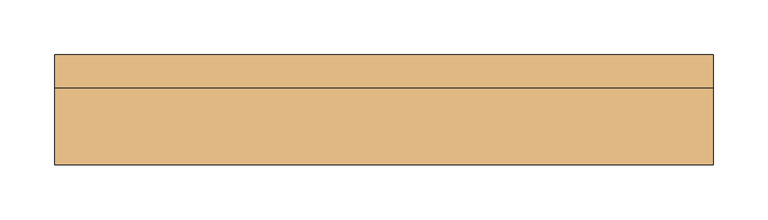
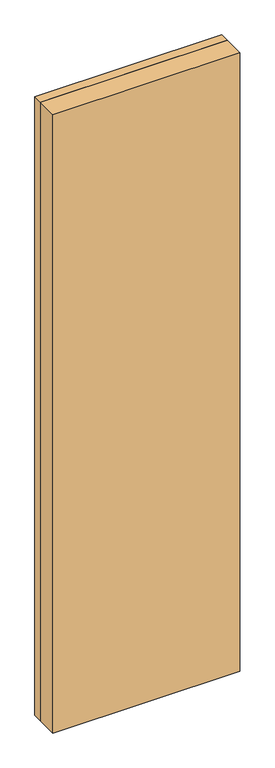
"""IFC4 building model written with IfcOpenShell, lengths in millimetres: door geometry, (Dr)_ДУ(распашная)_1Ст_Прямоугольная : (Вн)_ДГ(0.6х2.1(h)) с/у."""

from ifc_helpers import new_model, si_unit, frame, origin, origin_with_axes, place, context, project, spatial, polyline, outline, extrude, source, transform, mapped, element, save


def door_64e12b20(model_context):
    return source(origin(), model_context, "Body", "SweptSolid", [
        extrude(outline(polyline([(270.0, 15.0), (270.0, -15.0), (-270.0, -15.0), (-270.0, 15.0), (270.0, 15.0)])), origin_with_axes(), (0.0, 0.0, 1.0), 2070.0),
        extrude(outline(polyline([(0.0, -300.0), (0.0, -270.0), (2070.0, -270.0), (2070.0, 270.0), (0.0, 270.0), (0.0, 300.0), (2100.0, 300.0), (2100.0, -300.0), (0.0, -300.0)])), frame((0.0, -15.0, 0.0), z_axis=(0.0, 1.0, 0.0), x_axis=(0.0, 0.0, 1.0)), (0.0, 0.0, 1.0), 30.0),
        extrude(outline(polyline([(300.0, -85.0), (-300.0, -85.0), (-300.0, -15.0), (300.0, -15.0), (300.0, -85.0)])), origin_with_axes(), (0.0, 0.0, 1.0), 2100.0),
    ])


if __name__ == "__main__":
    model = new_model("IFC4")
    model_context = context("Model", 3, world=origin())
    ifc_project = project(units=[si_unit("LENGTHUNIT", "METRE", prefix="MILLI")], contexts=[model_context])
    site = spatial("IfcSite", under=ifc_project)
    building = spatial("IfcBuilding", under=site)
    placement = place(None, origin())
    door_shape = door_64e12b20(model_context)
    element("IfcDoor", 1, ObjectType="(Dr)_ДУ(распашная)_1Ст_Прямоугольная : (Вн)_ДГ(0.6х2.1(h)) с/у", at=placement, inside=building, context=model_context, shape_type="MappedRepresentation", body=[
        mapped(door_shape, transform((0.0, 0.0, 0.0), x_axis=(1.0, 0.0, 0.0), y_axis=(0.0, 1.0, 0.0), z_axis=(0.0, 0.0, 1.0))),
    ])
    save(model, "model.ifc")
